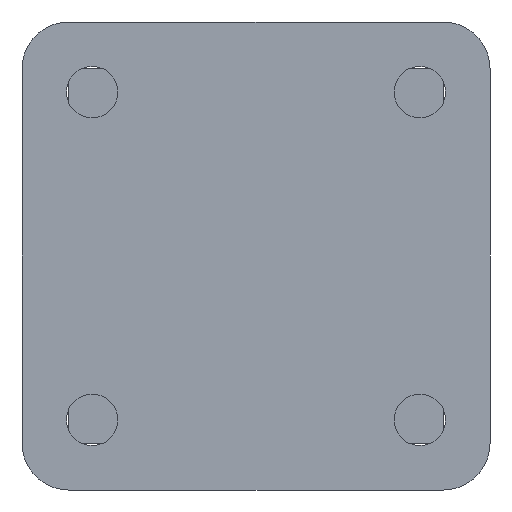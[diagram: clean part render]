
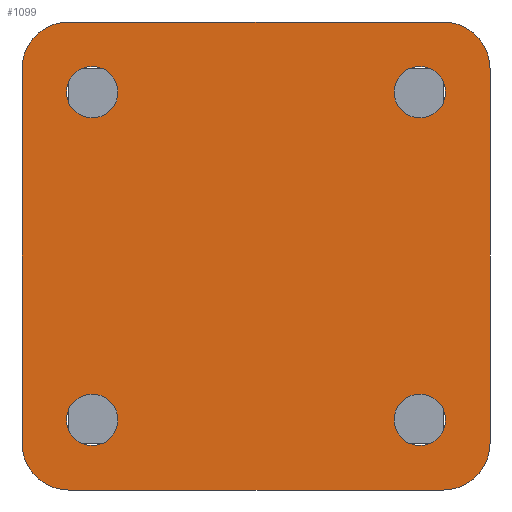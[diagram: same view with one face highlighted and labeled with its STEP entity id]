
A CAD part, front view. The second image highlights one B-rep face of the part: STEP entity #1099.
In plain terms, the highlighted planar face has unit normal (0, -1, 0).
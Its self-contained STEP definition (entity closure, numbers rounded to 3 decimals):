
#5 = VERTEX_POINT ( 'NONE', #1027 ) ;
#204 = EDGE_LOOP ( 'NONE', ( #11115, #426 ) ) ;
#426 = ORIENTED_EDGE ( 'NONE', *, *, #3580, .T. ) ;
#435 = EDGE_CURVE ( 'NONE', #14366, #11719, #17104, .T. ) ;
#478 = CARTESIAN_POINT ( 'NONE',  ( -40., 0., 50. ) ) ;
#723 = EDGE_CURVE ( 'NONE', #11719, #14366, #7625, .T. ) ;
#1027 = CARTESIAN_POINT ( 'NONE',  ( -50., 0., 40. ) ) ;
#1099 = ADVANCED_FACE ( 'NONE', ( #20268, #15238, #16051, #1565, #7119 ), #3501, .F. ) ;
#1281 = AXIS2_PLACEMENT_3D ( 'NONE', #9300, #17612, #7538 ) ;
#1356 = VECTOR ( 'NONE', #15015, 1000. ) ;
#1452 = DIRECTION ( 'NONE',  ( 0., -1., 0. ) ) ;
#1565 = FACE_BOUND ( 'NONE', #2281, .T. ) ;
#1828 = DIRECTION ( 'NONE',  ( 0., 0., 1. ) ) ;
#1966 = AXIS2_PLACEMENT_3D ( 'NONE', #2729, #2577, #12926 ) ;
#2281 = EDGE_LOOP ( 'NONE', ( #18873, #3883 ) ) ;
#2577 = DIRECTION ( 'NONE',  ( 0., 1., 0. ) ) ;
#2667 = EDGE_CURVE ( 'NONE', #19176, #5670, #19730, .T. ) ;
#2729 = CARTESIAN_POINT ( 'NONE',  ( 35., 0., -35. ) ) ;
#2868 = CARTESIAN_POINT ( 'NONE',  ( -35., 0., 40.5 ) ) ;
#2983 = DIRECTION ( 'NONE',  ( 0., 0., 1. ) ) ;
#3127 = CIRCLE ( 'NONE', #5378, 10. ) ;
#3333 = VECTOR ( 'NONE', #20594, 1000. ) ;
#3501 = PLANE ( 'NONE',  #16761 ) ;
#3580 = EDGE_CURVE ( 'NONE', #14149, #14537, #19469, .T. ) ;
#3764 = VECTOR ( 'NONE', #14958, 1000. ) ;
#3800 = CARTESIAN_POINT ( 'NONE',  ( -35., 0., 35. ) ) ;
#3883 = ORIENTED_EDGE ( 'NONE', *, *, #12501, .T. ) ;
#4124 = EDGE_CURVE ( 'NONE', #16066, #5, #5463, .T. ) ;
#4294 = LINE ( 'NONE', #11372, #3764 ) ;
#4426 = CARTESIAN_POINT ( 'NONE',  ( 35., 0., 35. ) ) ;
#5197 = EDGE_LOOP ( 'NONE', ( #20523, #21696 ) ) ;
#5378 = AXIS2_PLACEMENT_3D ( 'NONE', #8040, #21422, #6471 ) ;
#5463 = CIRCLE ( 'NONE', #7681, 10. ) ;
#5495 = CARTESIAN_POINT ( 'NONE',  ( -50., 0., -50. ) ) ;
#5670 = VERTEX_POINT ( 'NONE', #18056 ) ;
#5941 = AXIS2_PLACEMENT_3D ( 'NONE', #4426, #6774, #8894 ) ;
#5972 = EDGE_CURVE ( 'NONE', #9937, #8675, #12279, .T. ) ;
#6212 = DIRECTION ( 'NONE',  ( 0., -1., 0. ) ) ;
#6471 = DIRECTION ( 'NONE',  ( 0., 0., 1. ) ) ;
#6774 = DIRECTION ( 'NONE',  ( 0., 1., 0. ) ) ;
#6851 = DIRECTION ( 'NONE',  ( 0., 0., 1. ) ) ;
#6886 = ORIENTED_EDGE ( 'NONE', *, *, #4124, .T. ) ;
#6983 = DIRECTION ( 'NONE',  ( 0., 1., 0. ) ) ;
#7119 = FACE_OUTER_BOUND ( 'NONE', #7432, .T. ) ;
#7305 = VERTEX_POINT ( 'NONE', #19927 ) ;
#7348 = CARTESIAN_POINT ( 'NONE',  ( 40., 0., 50. ) ) ;
#7432 = EDGE_LOOP ( 'NONE', ( #15860, #10004, #10264, #8281, #9707, #10408, #11637, #6886 ) ) ;
#7538 = DIRECTION ( 'NONE',  ( 0., 0., 1. ) ) ;
#7625 = CIRCLE ( 'NONE', #21295, 5.5 ) ;
#7681 = AXIS2_PLACEMENT_3D ( 'NONE', #16429, #6212, #2983 ) ;
#8040 = CARTESIAN_POINT ( 'NONE',  ( -40., 0., -40. ) ) ;
#8123 = CARTESIAN_POINT ( 'NONE',  ( -35., 0., 29.5 ) ) ;
#8162 = VERTEX_POINT ( 'NONE', #21505 ) ;
#8281 = ORIENTED_EDGE ( 'NONE', *, *, #18691, .T. ) ;
#8399 = DIRECTION ( 'NONE',  ( 0., 0., 1. ) ) ;
#8534 = DIRECTION ( 'NONE',  ( 0., 1., 0. ) ) ;
#8675 = VERTEX_POINT ( 'NONE', #20103 ) ;
#8744 = DIRECTION ( 'NONE',  ( 0., 0., 1. ) ) ;
#8894 = DIRECTION ( 'NONE',  ( 0., 0., 1. ) ) ;
#8913 = DIRECTION ( 'NONE',  ( 0., 0., 1. ) ) ;
#9300 = CARTESIAN_POINT ( 'NONE',  ( -35., 0., 35. ) ) ;
#9425 = EDGE_CURVE ( 'NONE', #18772, #21604, #15364, .T. ) ;
#9707 = ORIENTED_EDGE ( 'NONE', *, *, #9425, .F. ) ;
#9937 = VERTEX_POINT ( 'NONE', #19854 ) ;
#10004 = ORIENTED_EDGE ( 'NONE', *, *, #17946, .T. ) ;
#10128 = DIRECTION ( 'NONE',  ( 0., 0., 1. ) ) ;
#10142 = EDGE_CURVE ( 'NONE', #12271, #5, #4294, .T. ) ;
#10154 = DIRECTION ( 'NONE',  ( 0., 1., 0. ) ) ;
#10264 = ORIENTED_EDGE ( 'NONE', *, *, #18961, .F. ) ;
#10280 = DIRECTION ( 'NONE',  ( 0., 0., -1. ) ) ;
#10301 = CARTESIAN_POINT ( 'NONE',  ( 35., 0., -29.5 ) ) ;
#10305 = LINE ( 'NONE', #18134, #1356 ) ;
#10408 = ORIENTED_EDGE ( 'NONE', *, *, #11196, .T. ) ;
#11115 = ORIENTED_EDGE ( 'NONE', *, *, #20804, .T. ) ;
#11196 = EDGE_CURVE ( 'NONE', #18772, #19019, #14013, .T. ) ;
#11372 = CARTESIAN_POINT ( 'NONE',  ( -50., 0., -50. ) ) ;
#11637 = ORIENTED_EDGE ( 'NONE', *, *, #14386, .F. ) ;
#11719 = VERTEX_POINT ( 'NONE', #2868 ) ;
#11971 = CARTESIAN_POINT ( 'NONE',  ( -50., 0., 50. ) ) ;
#12182 = CARTESIAN_POINT ( 'NONE',  ( -50., 0., -40. ) ) ;
#12271 = VERTEX_POINT ( 'NONE', #12182 ) ;
#12279 = CIRCLE ( 'NONE', #20531, 5.5 ) ;
#12428 = ORIENTED_EDGE ( 'NONE', *, *, #723, .T. ) ;
#12501 = EDGE_CURVE ( 'NONE', #8675, #9937, #17190, .T. ) ;
#12705 = AXIS2_PLACEMENT_3D ( 'NONE', #20102, #16985, #15215 ) ;
#12926 = DIRECTION ( 'NONE',  ( 0., 0., 1. ) ) ;
#13565 = CARTESIAN_POINT ( 'NONE',  ( 35., 0., 35. ) ) ;
#13603 = AXIS2_PLACEMENT_3D ( 'NONE', #21618, #1452, #16597 ) ;
#14013 = CIRCLE ( 'NONE', #17992, 10. ) ;
#14149 = VERTEX_POINT ( 'NONE', #17985 ) ;
#14366 = VERTEX_POINT ( 'NONE', #8123 ) ;
#14386 = EDGE_CURVE ( 'NONE', #16066, #19019, #10305, .T. ) ;
#14537 = VERTEX_POINT ( 'NONE', #10301 ) ;
#14758 = AXIS2_PLACEMENT_3D ( 'NONE', #13565, #8534, #10128 ) ;
#14958 = DIRECTION ( 'NONE',  ( 0., 0., 1. ) ) ;
#15015 = DIRECTION ( 'NONE',  ( 1., 0., 0. ) ) ;
#15076 = DIRECTION ( 'NONE',  ( 0., -1., 0. ) ) ;
#15160 = AXIS2_PLACEMENT_3D ( 'NONE', #17246, #18960, #8744 ) ;
#15215 = DIRECTION ( 'NONE',  ( 0., 0., 1. ) ) ;
#15238 = FACE_BOUND ( 'NONE', #5197, .T. ) ;
#15364 = LINE ( 'NONE', #17119, #15641 ) ;
#15471 = CIRCLE ( 'NONE', #14758, 5.5 ) ;
#15641 = VECTOR ( 'NONE', #10280, 1000. ) ;
#15860 = ORIENTED_EDGE ( 'NONE', *, *, #10142, .F. ) ;
#16051 = FACE_BOUND ( 'NONE', #204, .T. ) ;
#16066 = VERTEX_POINT ( 'NONE', #478 ) ;
#16429 = CARTESIAN_POINT ( 'NONE',  ( -40., 0., 40. ) ) ;
#16597 = DIRECTION ( 'NONE',  ( 0., 0., 1. ) ) ;
#16761 = AXIS2_PLACEMENT_3D ( 'NONE', #11971, #6983, #1828 ) ;
#16971 = CARTESIAN_POINT ( 'NONE',  ( 50., 0., 40. ) ) ;
#16985 = DIRECTION ( 'NONE',  ( 0., 1., 0. ) ) ;
#17104 = CIRCLE ( 'NONE', #1281, 5.5 ) ;
#17119 = CARTESIAN_POINT ( 'NONE',  ( 50., 0., -50. ) ) ;
#17190 = CIRCLE ( 'NONE', #15160, 5.5 ) ;
#17246 = CARTESIAN_POINT ( 'NONE',  ( -35., 0., -35. ) ) ;
#17282 = DIRECTION ( 'NONE',  ( 0., 1., 0. ) ) ;
#17612 = DIRECTION ( 'NONE',  ( 0., 1., 0. ) ) ;
#17686 = CARTESIAN_POINT ( 'NONE',  ( 50., 0., -40. ) ) ;
#17946 = EDGE_CURVE ( 'NONE', #12271, #8162, #3127, .T. ) ;
#17985 = CARTESIAN_POINT ( 'NONE',  ( 35., 0., -40.5 ) ) ;
#17992 = AXIS2_PLACEMENT_3D ( 'NONE', #18480, #15076, #8399 ) ;
#18056 = CARTESIAN_POINT ( 'NONE',  ( 35., 0., 40.5 ) ) ;
#18134 = CARTESIAN_POINT ( 'NONE',  ( -50., 0., 50. ) ) ;
#18399 = ORIENTED_EDGE ( 'NONE', *, *, #435, .T. ) ;
#18480 = CARTESIAN_POINT ( 'NONE',  ( 40., 0., 40. ) ) ;
#18691 = EDGE_CURVE ( 'NONE', #7305, #21604, #21005, .T. ) ;
#18715 = EDGE_CURVE ( 'NONE', #5670, #19176, #15471, .T. ) ;
#18772 = VERTEX_POINT ( 'NONE', #16971 ) ;
#18784 = CARTESIAN_POINT ( 'NONE',  ( -35., 0., -35. ) ) ;
#18873 = ORIENTED_EDGE ( 'NONE', *, *, #5972, .T. ) ;
#18915 = LINE ( 'NONE', #5495, #3333 ) ;
#18960 = DIRECTION ( 'NONE',  ( 0., 1., 0. ) ) ;
#18961 = EDGE_CURVE ( 'NONE', #7305, #8162, #18915, .T. ) ;
#19019 = VERTEX_POINT ( 'NONE', #7348 ) ;
#19176 = VERTEX_POINT ( 'NONE', #20944 ) ;
#19469 = CIRCLE ( 'NONE', #12705, 5.5 ) ;
#19730 = CIRCLE ( 'NONE', #5941, 5.5 ) ;
#19854 = CARTESIAN_POINT ( 'NONE',  ( -35., 0., -29.5 ) ) ;
#19927 = CARTESIAN_POINT ( 'NONE',  ( 40., 0., -50. ) ) ;
#20102 = CARTESIAN_POINT ( 'NONE',  ( 35., 0., -35. ) ) ;
#20103 = CARTESIAN_POINT ( 'NONE',  ( -35., 0., -40.5 ) ) ;
#20268 = FACE_BOUND ( 'NONE', #20414, .T. ) ;
#20414 = EDGE_LOOP ( 'NONE', ( #12428, #18399 ) ) ;
#20447 = CIRCLE ( 'NONE', #1966, 5.5 ) ;
#20523 = ORIENTED_EDGE ( 'NONE', *, *, #18715, .T. ) ;
#20531 = AXIS2_PLACEMENT_3D ( 'NONE', #18784, #10154, #6851 ) ;
#20594 = DIRECTION ( 'NONE',  ( -1., 0., 0. ) ) ;
#20804 = EDGE_CURVE ( 'NONE', #14537, #14149, #20447, .T. ) ;
#20944 = CARTESIAN_POINT ( 'NONE',  ( 35., 0., 29.5 ) ) ;
#21005 = CIRCLE ( 'NONE', #13603, 10. ) ;
#21295 = AXIS2_PLACEMENT_3D ( 'NONE', #3800, #17282, #8913 ) ;
#21422 = DIRECTION ( 'NONE',  ( 0., -1., 0. ) ) ;
#21505 = CARTESIAN_POINT ( 'NONE',  ( -40., 0., -50. ) ) ;
#21604 = VERTEX_POINT ( 'NONE', #17686 ) ;
#21618 = CARTESIAN_POINT ( 'NONE',  ( 40., 0., -40. ) ) ;
#21696 = ORIENTED_EDGE ( 'NONE', *, *, #2667, .T. ) ;
